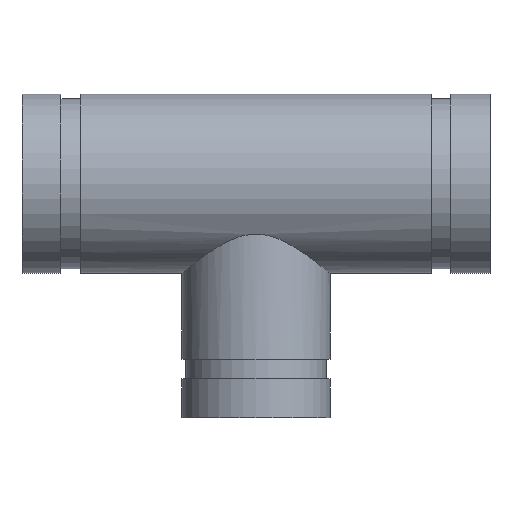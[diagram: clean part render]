
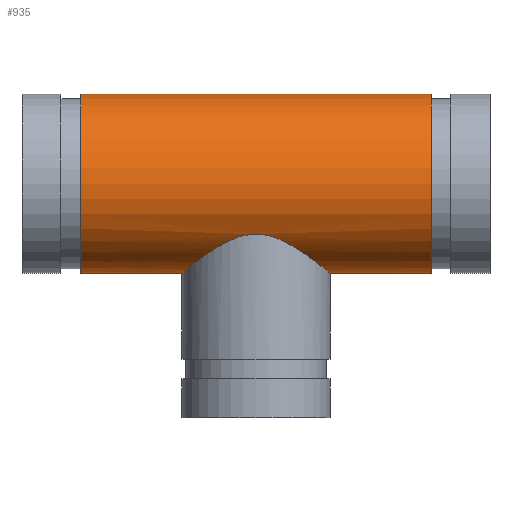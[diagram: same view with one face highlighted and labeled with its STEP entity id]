
A CAD part, top view. The second image highlights one B-rep face of the part: STEP entity #935.
In plain terms, the highlighted cylindrical face has radius 36.513 mm (diameter 73.025 mm), a full revolution.
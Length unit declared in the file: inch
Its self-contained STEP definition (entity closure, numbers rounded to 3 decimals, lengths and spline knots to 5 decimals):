
#61=FACE_BOUND('',#222,.T.);
#67=B_SPLINE_CURVE_WITH_KNOTS('',3,(#1807,#1808,#1809,#1810,#1811,#1812,
#1813,#1814,#1815,#1816,#1817,#1818,#1819,#1820,#1821,#1822,#1823,#1824),
 .UNSPECIFIED.,.F.,.F.,(4,2,2,2,2,2,2,2,4),(0.,0.62586,1.25171,
1.87757,2.50343,3.1053,3.70718,4.30906,
4.91093),.UNSPECIFIED.);
#68=B_SPLINE_CURVE_WITH_KNOTS('',3,(#1825,#1826,#1827,#1828,#1829,#1830,
#1831,#1832,#1833,#1834,#1835,#1836,#1837,#1838,#1839,#1840,#1841,#1842,
#1843,#1844,#1845,#1846,#1847,#1848,#1849,#1850,#1851,#1852,#1853,#1854,
#1855,#1856,#1857,#1858,#1859,#1860,#1861,#1862,#1863,#1864,#1865,#1866,
#1867,#1868,#1869,#1870,#1871,#1872,#1873,#1874),.UNSPECIFIED.,.F.,.F.,
(4,2,2,2,2,2,2,2,2,2,2,2,2,2,2,2,2,2,2,2,2,2,2,2,4),(4.91093,5.51281,
6.11468,6.71656,7.31844,7.94429,8.57015,
9.19601,9.82186,10.44772,11.07358,11.69943,
12.32529,12.92717,13.52904,14.13092,14.73279,
15.33467,15.93655,16.53842,17.1403,17.76616,
18.39201,19.01787,19.64373),.UNSPECIFIED.);
#81=CYLINDRICAL_SURFACE('',#1104,1.4375);
#103=LINE('',#1804,#125);
#125=VECTOR('',#1432,1.4375);
#171=FACE_OUTER_BOUND('',#221,.T.);
#221=EDGE_LOOP('',(#814,#815,#816,#817));
#222=EDGE_LOOP('',(#818,#819));
#326=CIRCLE('',#1087,1.4375);
#337=CIRCLE('',#1103,1.4375);
#424=VERTEX_POINT('',#1772);
#435=VERTEX_POINT('',#1801);
#436=VERTEX_POINT('',#1805);
#437=VERTEX_POINT('',#1806);
#552=EDGE_CURVE('',#424,#424,#326,.T.);
#565=EDGE_CURVE('',#435,#435,#337,.T.);
#566=EDGE_CURVE('',#435,#424,#103,.T.);
#567=EDGE_CURVE('',#436,#437,#67,.T.);
#568=EDGE_CURVE('',#437,#436,#68,.T.);
#814=ORIENTED_EDGE('',*,*,#565,.T.);
#815=ORIENTED_EDGE('',*,*,#566,.T.);
#816=ORIENTED_EDGE('',*,*,#552,.T.);
#817=ORIENTED_EDGE('',*,*,#566,.F.);
#818=ORIENTED_EDGE('',*,*,#567,.T.);
#819=ORIENTED_EDGE('',*,*,#568,.T.);
#935=ADVANCED_FACE('',(#171,#61),#81,.T.);
#1087=AXIS2_PLACEMENT_3D('',#1773,#1394,#1395);
#1103=AXIS2_PLACEMENT_3D('',#1802,#1428,#1429);
#1104=AXIS2_PLACEMENT_3D('',#1803,#1430,#1431);
#1394=DIRECTION('center_axis',(-1.,0.,0.));
#1395=DIRECTION('ref_axis',(0.,-1.,0.));
#1428=DIRECTION('center_axis',(1.,0.,0.));
#1429=DIRECTION('ref_axis',(0.,-1.,0.));
#1430=DIRECTION('center_axis',(-1.,0.,0.));
#1431=DIRECTION('ref_axis',(0.,-1.,0.));
#1432=DIRECTION('',(1.,0.,0.));
#1772=CARTESIAN_POINT('',(2.812,1.4375,0.));
#1773=CARTESIAN_POINT('Origin',(2.812,0.,0.));
#1801=CARTESIAN_POINT('',(-2.812,1.4375,0.));
#1802=CARTESIAN_POINT('Origin',(-2.812,0.,0.));
#1803=CARTESIAN_POINT('Origin',(3.75,0.,0.));
#1804=CARTESIAN_POINT('',(3.75,1.4375,0.));
#1805=CARTESIAN_POINT('',(0.,-0.81009,-1.1875));
#1806=CARTESIAN_POINT('',(-1.1875,-1.4375,0.));
#1807=CARTESIAN_POINT('Ctrl Pts',(0.,-0.81009,
-1.1875));
#1808=CARTESIAN_POINT('Ctrl Pts',(-0.08213,-0.81009,
-1.1875));
#1809=CARTESIAN_POINT('Ctrl Pts',(-0.16284,-0.82292,
-1.17897));
#1810=CARTESIAN_POINT('Ctrl Pts',(-0.31863,-0.86729,
-1.14672));
#1811=CARTESIAN_POINT('Ctrl Pts',(-0.39378,-0.8986,
-1.12299));
#1812=CARTESIAN_POINT('Ctrl Pts',(-0.53659,-0.96971,
-1.06219));
#1813=CARTESIAN_POINT('Ctrl Pts',(-0.60431,-1.0095,
-1.02506));
#1814=CARTESIAN_POINT('Ctrl Pts',(-0.72999,-1.0894,-0.9397));
#1815=CARTESIAN_POINT('Ctrl Pts',(-0.78793,-1.12951,
-0.89145));
#1816=CARTESIAN_POINT('Ctrl Pts',(-0.88947,-1.20258,
-0.78991));
#1817=CARTESIAN_POINT('Ctrl Pts',(-0.9372,-1.23848,
-0.7332));
#1818=CARTESIAN_POINT('Ctrl Pts',(-1.02293,-1.30456,-0.60789));
#1819=CARTESIAN_POINT('Ctrl Pts',(-1.06093,-1.33472,-0.53929));
#1820=CARTESIAN_POINT('Ctrl Pts',(-1.12308,-1.38464,-0.39383));
#1821=CARTESIAN_POINT('Ctrl Pts',(-1.14728,-1.40443,-0.31681));
#1822=CARTESIAN_POINT('Ctrl Pts',(-1.17949,-1.43086,-0.15939));
#1823=CARTESIAN_POINT('Ctrl Pts',(-1.1875,-1.4375,-0.07899));
#1824=CARTESIAN_POINT('Ctrl Pts',(-1.1875,-1.4375,0.));
#1825=CARTESIAN_POINT('Ctrl Pts',(-1.1875,-1.4375,0.));
#1826=CARTESIAN_POINT('Ctrl Pts',(-1.1875,-1.4375,0.07899));
#1827=CARTESIAN_POINT('Ctrl Pts',(-1.17949,-1.43086,0.15939));
#1828=CARTESIAN_POINT('Ctrl Pts',(-1.14728,-1.40443,0.31681));
#1829=CARTESIAN_POINT('Ctrl Pts',(-1.12308,-1.38464,0.39383));
#1830=CARTESIAN_POINT('Ctrl Pts',(-1.06093,-1.33472,0.53929));
#1831=CARTESIAN_POINT('Ctrl Pts',(-1.02293,-1.30456,0.60789));
#1832=CARTESIAN_POINT('Ctrl Pts',(-0.9372,-1.23848,
0.7332));
#1833=CARTESIAN_POINT('Ctrl Pts',(-0.88947,-1.20258,
0.78991));
#1834=CARTESIAN_POINT('Ctrl Pts',(-0.78793,-1.12951,
0.89145));
#1835=CARTESIAN_POINT('Ctrl Pts',(-0.72999,-1.0894,0.9397));
#1836=CARTESIAN_POINT('Ctrl Pts',(-0.60431,-1.0095,
1.02506));
#1837=CARTESIAN_POINT('Ctrl Pts',(-0.53659,-0.96971,
1.06219));
#1838=CARTESIAN_POINT('Ctrl Pts',(-0.39378,-0.8986,
1.12299));
#1839=CARTESIAN_POINT('Ctrl Pts',(-0.31863,-0.86729,
1.14672));
#1840=CARTESIAN_POINT('Ctrl Pts',(-0.16284,-0.82292,
1.17897));
#1841=CARTESIAN_POINT('Ctrl Pts',(-0.08213,-0.81009,
1.1875));
#1842=CARTESIAN_POINT('Ctrl Pts',(0.08213,-0.81009,
1.1875));
#1843=CARTESIAN_POINT('Ctrl Pts',(0.16284,-0.82292,
1.17897));
#1844=CARTESIAN_POINT('Ctrl Pts',(0.31863,-0.86729,
1.14672));
#1845=CARTESIAN_POINT('Ctrl Pts',(0.39378,-0.8986,
1.12299));
#1846=CARTESIAN_POINT('Ctrl Pts',(0.53659,-0.96971,
1.06219));
#1847=CARTESIAN_POINT('Ctrl Pts',(0.60431,-1.0095,1.02506));
#1848=CARTESIAN_POINT('Ctrl Pts',(0.72999,-1.0894,0.9397));
#1849=CARTESIAN_POINT('Ctrl Pts',(0.78793,-1.12951,0.89145));
#1850=CARTESIAN_POINT('Ctrl Pts',(0.88947,-1.20258,0.78991));
#1851=CARTESIAN_POINT('Ctrl Pts',(0.9372,-1.23848,0.7332));
#1852=CARTESIAN_POINT('Ctrl Pts',(1.02293,-1.30456,0.60789));
#1853=CARTESIAN_POINT('Ctrl Pts',(1.06093,-1.33472,0.53929));
#1854=CARTESIAN_POINT('Ctrl Pts',(1.12308,-1.38464,0.39383));
#1855=CARTESIAN_POINT('Ctrl Pts',(1.14728,-1.40443,0.31681));
#1856=CARTESIAN_POINT('Ctrl Pts',(1.17949,-1.43086,0.15939));
#1857=CARTESIAN_POINT('Ctrl Pts',(1.1875,-1.4375,0.07899));
#1858=CARTESIAN_POINT('Ctrl Pts',(1.1875,-1.4375,-0.07899));
#1859=CARTESIAN_POINT('Ctrl Pts',(1.17949,-1.43086,-0.15939));
#1860=CARTESIAN_POINT('Ctrl Pts',(1.14728,-1.40443,-0.31681));
#1861=CARTESIAN_POINT('Ctrl Pts',(1.12308,-1.38464,-0.39383));
#1862=CARTESIAN_POINT('Ctrl Pts',(1.06093,-1.33472,-0.53929));
#1863=CARTESIAN_POINT('Ctrl Pts',(1.02293,-1.30456,-0.60789));
#1864=CARTESIAN_POINT('Ctrl Pts',(0.9372,-1.23848,-0.7332));
#1865=CARTESIAN_POINT('Ctrl Pts',(0.88947,-1.20258,-0.78991));
#1866=CARTESIAN_POINT('Ctrl Pts',(0.78793,-1.12951,-0.89145));
#1867=CARTESIAN_POINT('Ctrl Pts',(0.72999,-1.0894,-0.9397));
#1868=CARTESIAN_POINT('Ctrl Pts',(0.60431,-1.0095,-1.02506));
#1869=CARTESIAN_POINT('Ctrl Pts',(0.53659,-0.96971,
-1.06219));
#1870=CARTESIAN_POINT('Ctrl Pts',(0.39378,-0.8986,
-1.12299));
#1871=CARTESIAN_POINT('Ctrl Pts',(0.31863,-0.86729,
-1.14672));
#1872=CARTESIAN_POINT('Ctrl Pts',(0.16284,-0.82292,
-1.17897));
#1873=CARTESIAN_POINT('Ctrl Pts',(0.08213,-0.81009,
-1.1875));
#1874=CARTESIAN_POINT('Ctrl Pts',(0.,-0.81009,
-1.1875));
